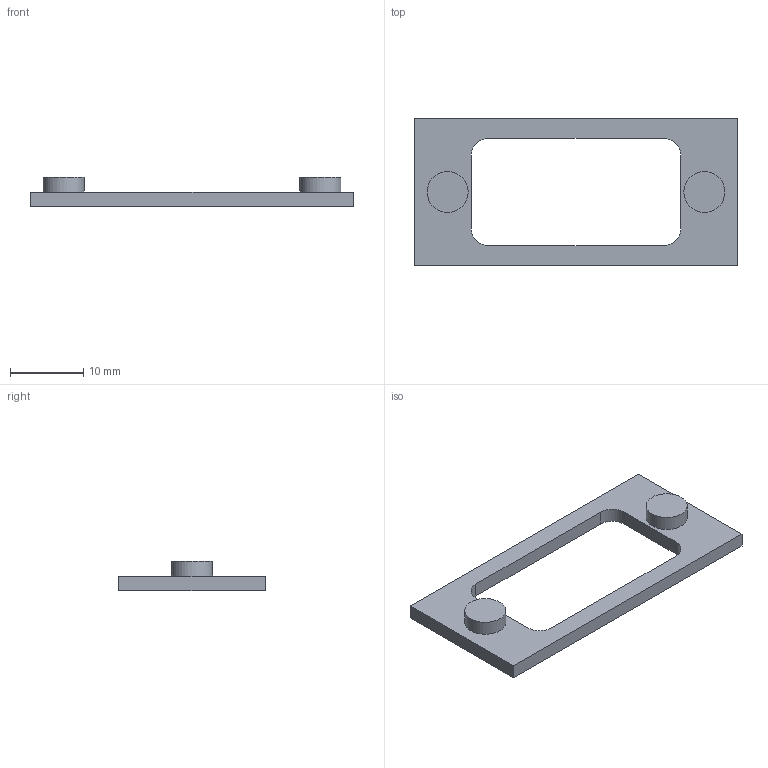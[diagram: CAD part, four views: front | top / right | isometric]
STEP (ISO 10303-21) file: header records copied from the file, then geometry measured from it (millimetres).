
FILE_DESCRIPTION(('Open CASCADE Model'),'2;1');
FILE_NAME('Open CASCADE Shape Model','2026-11-08T21:30:43',('Author'),( 'Open CASCADE'),'Open CASCADE STEP processor 7.8','Open CASCADE 7.8' ,'Unknown');
FILE_SCHEMA(('AUTOMOTIVE_DESIGN { 1 0 10303 214 1 1 1 1 }'));
Length unit declared in the file: millimetre
Products named in the file (1): Open CASCADE STEP translator 7.8 6
Bounding box: 44 x 20 x 4 mm (x, y, z)
Volume: 1016.1 mm3; surface area: 1463.7 mm2
Topology: 1 solids, 1 shells, 22 faces, 48 edges, 32 vertices
Faces by surface type: plane 14, cylinder 8
Full cylindrical faces by diameter (mm): 1.7 x2, 5.6 x2
Entity records: 1258 total; most frequent: CARTESIAN_POINT 223, DIRECTION 202, LINE 112, VECTOR 112, ORIENTED_EDGE 96, PCURVE 96, DEFINITIONAL_REPRESENTATION 96, EDGE_CURVE 48
